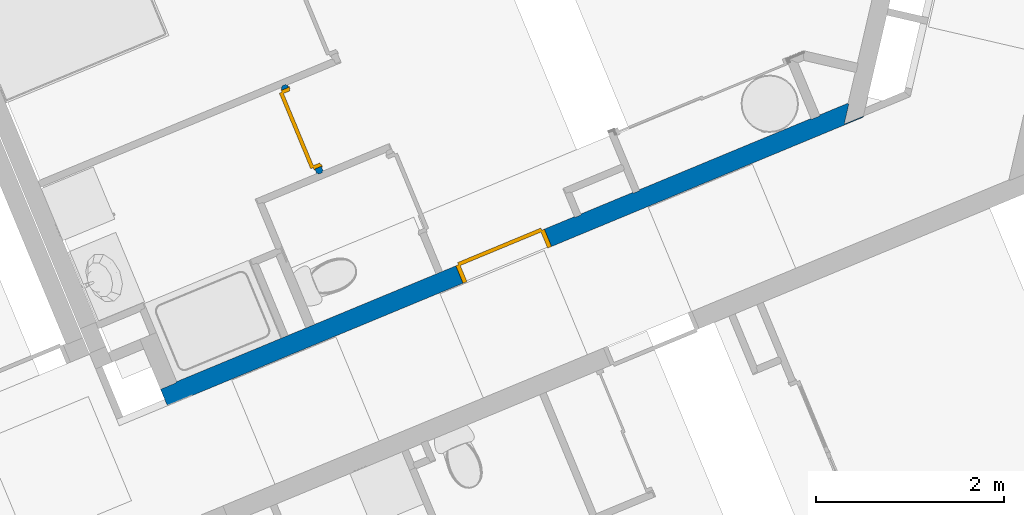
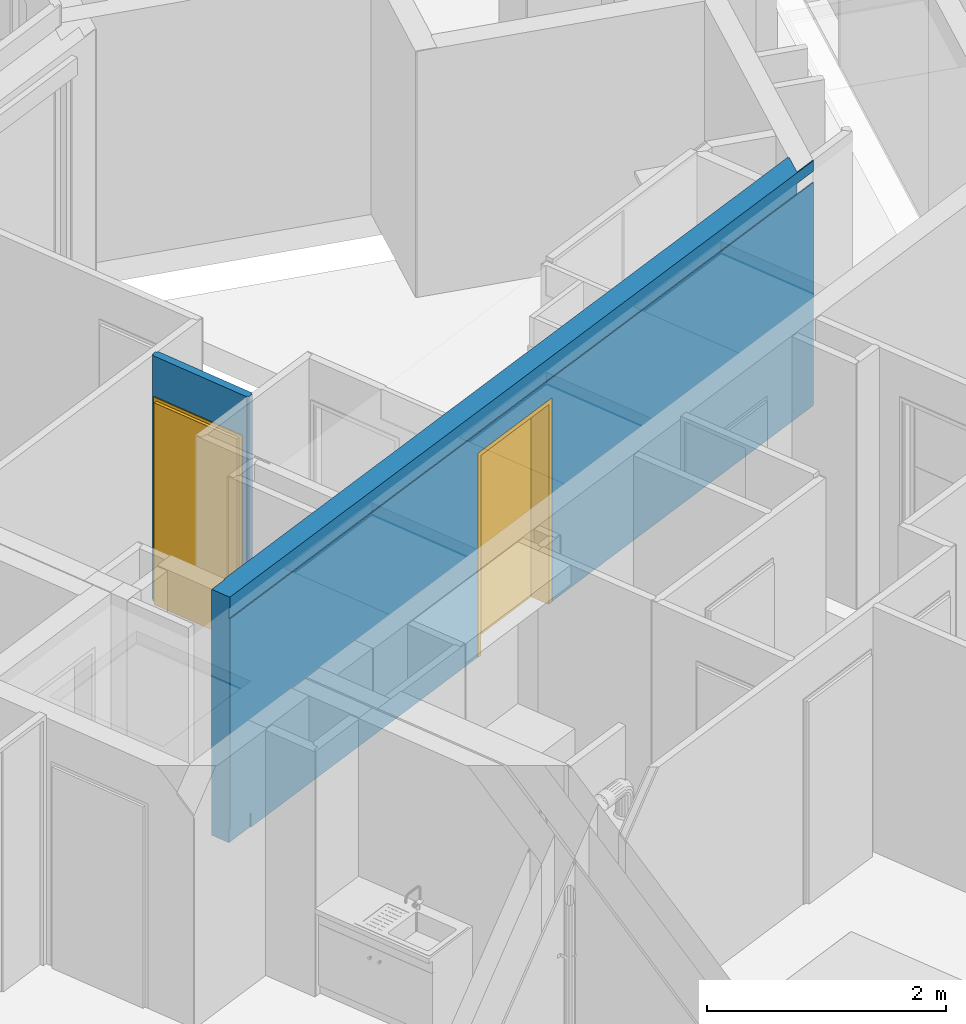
# One storey, part 15 of 119: 2 doors, 2 walls, 2 openings.
"""IFC2X3 building model written with IfcOpenShell, lengths in metres."""

from ifc_helpers import new_model, entity, si_unit, converted_unit, derived_unit, money_unit, direction, frame, origin_with_axes, place, context, subcontext, project, spatial, faceted_brep, source, transform, mapped, material, material_list, type_object, element, fill, save


model = new_model("IFC2X3")

# Units and contexts
model_context = context("Model", 3, precision=1e-05, world=origin_with_axes(), true_north=direction((0.0, 1.0)))
body_context = subcontext(model_context, "Body", "Model", "MODEL_VIEW")
ifc_project = project(units=[si_unit("LENGTHUNIT", "METRE"), si_unit("AREAUNIT", "SQUARE_METRE"), si_unit("VOLUMEUNIT", "CUBIC_METRE"), converted_unit("PLANEANGLEUNIT", "DEGREE", entity("IfcPlaneAngleMeasure", 0.0174532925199), si_unit("PLANEANGLEUNIT", "RADIAN"), dimensions=[0, 0, 0, 0, 0, 0, 0]), si_unit("SOLIDANGLEUNIT", "STERADIAN"), money_unit("EUR"), converted_unit("TIMEUNIT", "Year", entity("IfcTimeMeasure", 31556926.0), si_unit("TIMEUNIT", "SECOND"), dimensions=[0, 0, 1, 0, 0, 0, 0]), si_unit("MASSUNIT", "GRAM", prefix="KILO"), si_unit("THERMODYNAMICTEMPERATUREUNIT", "DEGREE_CELSIUS"), si_unit("LUMINOUSINTENSITYUNIT", "LUMEN"), si_unit("ENERGYUNIT", "JOULE", prefix="MEGA"), derived_unit("THERMALCONDUCTANCEUNIT", [(si_unit("POWERUNIT", "WATT"), 1), (si_unit("LENGTHUNIT", "METRE"), -1), (si_unit("THERMODYNAMICTEMPERATUREUNIT", "KELVIN"), -1)]), derived_unit("SPECIFICHEATCAPACITYUNIT", [(si_unit("ENERGYUNIT", "JOULE"), 1), (si_unit("MASSUNIT", "GRAM", prefix="KILO"), -1), (si_unit("THERMODYNAMICTEMPERATUREUNIT", "KELVIN"), -1)]), derived_unit("MASSDENSITYUNIT", [(si_unit("MASSUNIT", "GRAM", prefix="KILO"), 1), (si_unit("VOLUMEUNIT", "CUBIC_METRE"), -1)])], contexts=[model_context])

# Site, building, storey
site_placement = place(None, origin_with_axes())
site = spatial("IfcSite", under=ifc_project, at=site_placement, Name="Site", CompositionType="ELEMENT")
building_placement = place(site_placement, origin_with_axes())
building = spatial("IfcBuilding", under=site, at=building_placement, Name="Bâtiment", CompositionType="ELEMENT")
storey_placement = place(building_placement, origin_with_axes())
storey = spatial("IfcBuildingStorey", under=building, at=storey_placement, Name="Rez-de-chaussée", CompositionType="ELEMENT", Elevation=0.0)

# Wall, opening, door
ifc_material_1 = material(Name="Finition int - Plaque de plâtre")
ifc_material_2 = material(Name="Isolation - Laine de roche")
ifc_material_list_1 = material_list([ifc_material_1, ifc_material_2, ifc_material_1])
wall_type_1 = type_object("IfcWallType", Name="3 - Cloison 72mm Placostil 74", PredefinedType="USERDEFINED")
wall_1_placement = place(storey_placement, frame((-21.3785853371, -17.3244620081, 0.0), z_axis=(0.0, 0.0, 1.0), x_axis=(0.383112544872, -0.923701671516, 0.0)))
wall_1 = element("IfcWall", 1, at=wall_1_placement, inside=storey, type_object=wall_type_1, material=ifc_material_list_1, Name="Cloison Placostil 72/48", ObjectType="PARTITIONING", context=body_context, shape_type="Brep", body=[
    faceted_brep([(0.0281889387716, 0.0, 2.08), (0.0281889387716, 0.0, 0.0), (0.0, 0.0, 0.0), (0.0, 0.0, 2.5), (0.99099719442, 0.0, 2.5), (0.99099719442, 0.0, 0.0), (0.938188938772, 0.0, 0.0), (0.938188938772, 0.0, 2.08), (0.0281889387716, -0.013, 2.08), (0.0281889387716, -0.013, 0.0), (0.0, -0.013, 0.0), (0.0, -0.013, 2.5), (0.990997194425, -0.013, 2.5), (0.990997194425, -0.013, 0.0), (0.938188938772, -0.013, 0.0), (0.938188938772, -0.013, 2.08)], [[[0, 1, 2, 3, 4, 5, 6, 7]], [[1, 0, 8, 9]], [[1, 9, 10, 2]], [[11, 3, 2, 10]], [[4, 3, 11, 12]], [[12, 13, 5, 4]], [[14, 6, 5, 13]], [[7, 6, 14, 15]], [[0, 7, 15, 8]], [[15, 14, 13, 12, 11, 10, 9, 8]]]),
    faceted_brep([(0.0281889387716, -0.013, 2.08), (0.0281889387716, -0.013, 0.0), (-0.0129999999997, -0.013, 0.0), (-0.0129999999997, -0.013, 2.5), (1.00399719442, -0.013, 2.5), (1.00399719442, -0.013, 0.0), (0.938188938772, -0.013, 0.0), (0.938188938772, -0.013, 2.08), (0.0281889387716, -0.061, 2.08), (0.0281889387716, -0.061, 0.0), (-0.0129999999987, -0.061, 0.0), (-0.0129999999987, -0.061, 2.5), (1.00399719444, -0.061, 2.5), (1.00399719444, -0.061, 0.0), (0.938188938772, -0.061, 0.0), (0.938188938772, -0.061, 2.08)], [[[0, 1, 2, 3, 4, 5, 6, 7]], [[1, 0, 8, 9]], [[1, 9, 10, 2]], [[11, 3, 2, 10]], [[4, 3, 11, 12]], [[12, 13, 5, 4]], [[14, 6, 5, 13]], [[7, 6, 14, 15]], [[0, 7, 15, 8]], [[15, 14, 13, 12, 11, 10, 9, 8]]]),
    faceted_brep([(0.0281889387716, -0.061, 2.08), (0.0281889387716, -0.061, 0.0), (0.0, -0.061, 0.0), (0.0, -0.061, 2.5), (0.990997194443, -0.061, 2.5), (0.990997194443, -0.061, 0.0), (0.938188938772, -0.061, 0.0), (0.938188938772, -0.061, 2.08), (0.0281889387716, -0.074, 2.08), (0.0281889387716, -0.074, 0.0), (0.0, -0.074, 0.0), (0.0, -0.074, 2.5), (0.990997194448, -0.074, 2.5), (0.990997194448, -0.074, 0.0), (0.938188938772, -0.074, 0.0), (0.938188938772, -0.074, 2.08)], [[[0, 1, 2, 3, 4, 5, 6, 7]], [[1, 0, 8, 9]], [[1, 9, 10, 2]], [[11, 3, 2, 10]], [[4, 3, 11, 12]], [[12, 13, 5, 4]], [[14, 6, 5, 13]], [[7, 6, 14, 15]], [[0, 7, 15, 8]], [[15, 14, 13, 12, 11, 10, 9, 8]]]),
])
opening_1_placement = place(wall_1_placement, frame((0.483188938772, 0.0, 0.0), z_axis=(0.0, 0.0, 1.0), x_axis=(1.0, 0.0, 0.0)))
opening_1 = element("IfcOpeningElement", 2, at=opening_1_placement, cuts=wall_1, Name="Porte 83x204 bois alvéolaire", context=body_context, shape_type="Brep", body=[
    faceted_brep([(-0.455, 0.074, 0.0), (0.455, 0.074, 0.0), (0.455, -0.074, 0.0), (-0.455, -0.074, 0.0), (-0.455, 0.074, 2.08), (0.455, 0.074, 2.08), (0.455, -0.074, 2.08), (-0.455, -0.074, 2.08)], [[[0, 1, 2, 3]], [[0, 4, 5, 1]], [[1, 5, 6, 2]], [[3, 2, 6, 7]], [[4, 0, 3, 7]], [[5, 4, 7, 6]]]),
])
door_style_1 = type_object("IfcDoorStyle", Name="Porte int générique 2019", ConstructionType="NOTDEFINED", OperationType="SINGLE_SWING_RIGHT", ParameterTakesPrecedence=False, Sizeable=False)
shared_shape_1 = source(origin_with_axes(), body_context, "Body", "Brep", [
    faceted_brep([(0.455, -0.006, 0.0), (0.415, -0.006, 0.0), (0.415, -0.006, 2.04), (-0.415, -0.006, 2.04), (-0.415, -0.006, 0.0), (-0.455, -0.006, 0.0), (-0.455, -0.006, 2.08), (0.455, -0.006, 2.08), (0.455, -0.08, 0.0), (0.415, -0.08, 0.0), (0.415, -0.08, 2.04), (-0.415, -0.08, 2.04), (-0.415, -0.08, 0.0), (-0.455, -0.08, 0.0), (-0.455, -0.08, 2.08), (0.455, -0.08, 2.08)], [[[0, 1, 2, 3, 4, 5, 6, 7]], [[0, 8, 9, 1]], [[1, 9, 10, 2]], [[2, 10, 11, 3]], [[3, 11, 12, 4]], [[5, 4, 12, 13]], [[14, 6, 5, 13]], [[15, 7, 6, 14]], [[8, 0, 7, 15]], [[9, 8, 15, 14, 13, 12, 11, 10]]]),
    faceted_brep([(0.465, -0.006, 0.0), (0.465, 0.004, 0.0), (0.465, 0.004, 2.09), (0.465, -0.006, 2.09), (0.435, -0.006, 0.0), (0.435, 0.004, 0.0), (0.435, 0.004, 2.06), (-0.435, 0.004, 2.06), (-0.435, 0.004, 0.0), (-0.465, 0.004, 0.0), (-0.465, 0.004, 2.09), (-0.465, -0.006, 2.09), (-0.465, -0.006, 0.0), (-0.435, -0.006, 0.0), (-0.435, -0.006, 2.06), (0.435, -0.006, 2.06)], [[[0, 1, 2, 3]], [[0, 4, 5, 1]], [[1, 5, 6, 7, 8, 9, 10, 2]], [[3, 2, 10, 11]], [[4, 0, 3, 11, 12, 13, 14, 15]], [[5, 4, 15, 6]], [[6, 15, 14, 7]], [[7, 14, 13, 8]], [[12, 9, 8, 13]], [[11, 10, 9, 12]]]),
    faceted_brep([(0.465, -0.09, 0.0), (0.465, -0.08, 0.0), (0.465, -0.08, 2.09), (0.465, -0.09, 2.09), (0.435, -0.09, 0.0), (0.435, -0.08, 0.0), (0.435, -0.08, 2.06), (-0.435, -0.08, 2.06), (-0.435, -0.08, 0.0), (-0.465, -0.08, 0.0), (-0.465, -0.08, 2.09), (-0.465, -0.09, 2.09), (-0.465, -0.09, 0.0), (-0.435, -0.09, 0.0), (-0.435, -0.09, 2.06), (0.435, -0.09, 2.06)], [[[0, 1, 2, 3]], [[0, 4, 5, 1]], [[1, 5, 6, 7, 8, 9, 10, 2]], [[3, 2, 10, 11]], [[4, 0, 3, 11, 12, 13, 14, 15]], [[5, 4, 15, 6]], [[6, 15, 14, 7]], [[7, 14, 13, 8]], [[12, 9, 8, 13]], [[11, 10, 9, 12]]]),
    faceted_brep([(0.435, 0.034, 0.0), (0.435, -0.006, 0.0), (-0.435, -0.006, 0.0), (-0.435, 0.034, 0.0), (0.435, 0.034, 2.06), (0.435, -0.006, 2.06), (-0.435, -0.006, 2.06), (-0.435, 0.034, 2.06)], [[[0, 1, 2, 3]], [[4, 5, 1, 0]], [[1, 5, 6, 2]], [[3, 2, 6, 7]], [[0, 3, 7, 4]], [[7, 6, 5, 4]]]),
])
door_1_placement = place(opening_1_placement, frame((0.415, 0.0, 0.0), z_axis=(0.0, 0.0, 1.0), x_axis=(-1.0, 0.0, 0.0)))
door_1 = element("IfcDoor", 3, at=door_1_placement, inside=storey, type_object=door_style_1, Name="Porte 83x204 bois alvéolaire", ObjectType="DOOR", OverallHeight=2.04, OverallWidth=0.83, context=body_context, shape_type="MappedRepresentation", body=[
    mapped(shared_shape_1, transform((0.415, 0.08, 0.0))),
])
fill(opening_1, door_1)

ifc_material_3 = material(Name="Finition int - Enduit plâtre")
ifc_material_4 = material(Name="Béton")
ifc_material_list_2 = material_list([ifc_material_3, ifc_material_4, ifc_material_3])
wall_type_2 = type_object("IfcWallType", Name="2 - Murs Béton 18 + Enduit 2 Faces 200", PredefinedType="USERDEFINED")
wall_2_placement = place(storey_placement, frame((-22.6606031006, -20.7304905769, 0.0), z_axis=(0.0, 0.0, 1.0), x_axis=(0.923701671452, 0.383112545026, 0.0)))
wall_2 = element("IfcWall", 4, at=wall_2_placement, inside=storey, type_object=wall_type_2, material=ifc_material_list_2, Name="M_Ext-008", ObjectType="SOLIDWALL", context=body_context, shape_type="Brep", body=[
    faceted_brep([(3.40663340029, 0.18, 0.0), (3.40663340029, 0.18, 2.085), (4.42663340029, 0.18, 2.085), (4.42663340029, 0.18, 0.0), (4.77263340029, 0.18, 0.0), (4.77263340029, 0.18, 2.5), (4.84663340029, 0.18, 2.5), (4.84663340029, 0.18, 0.0), (5.44663340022, 0.18, 0.0), (5.44663340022, 0.18, 2.5), (5.52063340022, 0.18, 2.5), (5.52063340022, 0.18, 0.0), (7.49869973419, 0.18, 0.0), (7.49869973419, 0.18, 2.5), (7.59869973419, 0.18, 2.5), (7.59869973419, 0.18, 0.0), (7.9197511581, 0.18, 0.0), (7.9197511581, 0.18, 2.51), (0.18, 0.18, 2.51), (0.18, 0.18, 0.0), (3.40663340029, 0.19, 0.0), (3.40663340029, 0.19, 2.085), (4.42663340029, 0.19, 2.085), (4.42663340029, 0.19, 0.0), (4.77263340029, 0.19, 0.0), (4.77263340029, 0.19, 2.5), (4.84663340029, 0.19, 2.5), (4.84663340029, 0.19, 0.0), (5.44663340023, 0.19, 0.0), (5.44663340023, 0.19, 2.5), (5.52063340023, 0.19, 2.5), (5.52063340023, 0.19, 0.0), (7.4986997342, 0.19, 0.0), (7.4986997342, 0.19, 2.5), (7.5986997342, 0.19, 2.5), (7.5986997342, 0.19, 0.0), (7.92688993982, 0.19, 0.0), (7.92688993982, 0.19, 2.51), (0.18, 0.19, 2.51), (0.18, 0.19, 0.0)], [[[0, 1, 2, 3, 4, 5, 6, 7, 8, 9, 10, 11, 12, 13, 14, 15, 16, 17, 18, 19]], [[1, 0, 20, 21]], [[2, 1, 21, 22]], [[3, 2, 22, 23]], [[3, 23, 24, 4]], [[5, 4, 24, 25]], [[6, 5, 25, 26]], [[7, 6, 26, 27]], [[7, 27, 28, 8]], [[9, 8, 28, 29]], [[9, 29, 30, 10]], [[11, 10, 30, 31]], [[11, 31, 32, 12]], [[13, 12, 32, 33]], [[14, 13, 33, 34]], [[15, 14, 34, 35]], [[15, 35, 36, 16]], [[17, 16, 36, 37]], [[37, 38, 18, 17]], [[38, 39, 19, 18]], [[20, 0, 19, 39]], [[21, 20, 39, 38, 37, 36, 35, 34, 33, 32, 31, 30, 29, 28, 27, 26, 25, 24, 23, 22]]]),
    faceted_brep([(3.40663340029, 0.0, 0.0), (3.40663340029, 0.0, 2.085), (4.42663340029, 0.0, 2.085), (4.42663340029, 0.0, 0.0), (7.80353975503, 0.0, 0.0), (7.80353975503, 0.0, 2.51), (0.0, 0.0, 2.51), (0.0, 0.0, 0.150000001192), (0.0, 0.0, 0.0), (3.40663340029, 0.18, 0.0), (3.40663340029, 0.18, 2.085), (4.42663340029, 0.18, 2.085), (4.42663340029, 0.18, 0.0), (7.93203782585, 0.18, 0.0), (7.93203782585, 0.18, 2.51), (0.0, 0.18, 2.51), (0.0, 0.18, 0.150000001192), (0.0, 0.18, 0.0)], [[[0, 1, 2, 3, 4, 5, 6, 7, 8]], [[1, 0, 9, 10]], [[2, 1, 10, 11]], [[3, 2, 11, 12]], [[3, 12, 13, 4]], [[5, 4, 13, 14]], [[14, 15, 6, 5]], [[15, 16, 7, 6]], [[17, 8, 7, 16]], [[9, 0, 8, 17]], [[10, 9, 17, 16, 15, 14, 13, 12, 11]]]),
    faceted_brep([(3.40663340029, -0.00999999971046, 0.02), (3.40663340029, -0.00999999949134, 2.085), (4.42663340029, -0.00999999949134, 2.085), (4.42663340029, -0.00999999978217, 0.02), (8.0175610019, -0.0100000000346, 0.02), (8.0175609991, -0.0100000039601, 2.287), (0.0, -0.00999999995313, 2.287), (0.0, -0.00999999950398, 0.15), (0.290000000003, -0.00999999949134, 0.15), (0.290000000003, -0.00999999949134, 0.02), (3.40663340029, -0.00565602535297, 0.02), (3.40663340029, -0.00565602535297, 0.0), (3.40663340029, 0.0, 0.0), (3.40663340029, 0.0, 2.085), (4.42663340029, 0.0, 2.085), (4.42663340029, 0.0, 0.0), (4.42663340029, -0.0045376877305, 0.0), (4.42663340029, -0.0045376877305, 0.02), (8.02427631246, -0.000593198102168, 0.02), (8.02469978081, 0.0, 2.287), (8.02427631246, -0.000593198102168, 0.0), (8.02469978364, 0.0, 0.0), (0.0, 0.0, 2.287), (0.0, 0.0, 0.15), (0.290000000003, 0.0, 0.15), (0.290000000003, 0.0, 0.0), (0.290000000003, -0.00907313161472, 0.0), (0.290000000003, -0.00907313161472, 0.02)], [[[0, 1, 2, 3, 4, 5, 6, 7, 8, 9]], [[1, 0, 10, 11, 12, 13]], [[2, 1, 13, 14]], [[3, 2, 14, 15, 16, 17]], [[3, 17, 18, 4]], [[19, 5, 4, 18, 20, 21]], [[19, 22, 6, 5]], [[22, 23, 7, 6]], [[8, 7, 23, 24]], [[25, 26, 27, 9, 8, 24]], [[10, 0, 9, 27]], [[11, 10, 27, 26]], [[12, 11, 26, 25]], [[13, 12, 25, 24, 23, 22, 19, 21, 15, 14]], [[16, 15, 21, 20]], [[17, 16, 20, 18]]]),
    faceted_brep([(0.0, 0.0, 2.51), (8.02469977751, -2.16446416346e-09, 2.51), (8.02469978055, -4.32892832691e-09, 2.5), (8.02469978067, 0.0, 2.4), (0.0, 0.0, 2.4), (8.0175609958, -0.0100000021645, 2.51), (0.0, -0.01, 2.51), (8.01756099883, -0.0100000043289, 2.5), (8.01756099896, -0.0100000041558, 2.4), (0.0, -0.00999999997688, 2.4)], [[[0, 1, 2, 3, 4]], [[5, 1, 0, 6]], [[1, 5, 7, 2]], [[8, 3, 2, 7]], [[3, 8, 9, 4]], [[6, 0, 4, 9]], [[5, 6, 9, 8, 7]]]),
])
opening_2_placement = place(wall_2_placement, frame((3.91663340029, 0.0, 0.0), z_axis=(0.0, 0.0, 1.0), x_axis=(1.0, 0.0, 0.0)))
opening_2 = element("IfcOpeningElement", 5, at=opening_2_placement, cuts=wall_2, Name="Porte 93x204 bois blindée", context=body_context, shape_type="Brep", body=[
    faceted_brep([(-0.51, 0.2, 0.0), (0.51, 0.2, 0.0), (0.51, -0.2, 0.0), (-0.51, -0.2, 0.0), (-0.51, 0.2, 2.085), (0.51, 0.2, 2.085), (0.51, -0.2, 2.085), (-0.51, -0.2, 2.085)], [[[0, 1, 2, 3]], [[0, 4, 5, 1]], [[1, 5, 6, 2]], [[3, 2, 6, 7]], [[4, 0, 3, 7]], [[5, 4, 7, 6]]]),
])
door_style_2 = type_object("IfcDoorStyle", Name="Porte int générique 2019", ConstructionType="NOTDEFINED", OperationType="SINGLE_SWING_LEFT", ParameterTakesPrecedence=False, Sizeable=False)
shared_shape_2 = source(origin_with_axes(), body_context, "Body", "Brep", [
    faceted_brep([(-0.51, 0.0, 0.0), (-0.51, 0.0, 2.085), (0.51, 0.0, 2.085), (0.51, 0.0, 0.0), (0.48, 0.0, 0.0), (0.48, 0.0, 2.055), (-0.48, 0.0, 2.055), (-0.48, 0.0, 0.0), (-0.51, -0.2, 0.0), (-0.51, -0.2, 2.085), (0.51, -0.2, 2.085), (0.51, -0.2, 0.0), (0.465, -0.2, 0.0), (0.465, -0.015, 0.0), (0.48, -0.015, 0.0), (0.48, -0.015, 2.055), (-0.48, -0.015, 2.055), (-0.48, -0.015, 0.0), (-0.465, -0.015, 0.0), (-0.465, -0.2, 0.0), (-0.465, -0.2, 2.04), (0.465, -0.2, 2.04), (0.465, -0.015, 2.04), (-0.465, -0.015, 2.04)], [[[0, 1, 2, 3, 4, 5, 6, 7]], [[8, 9, 1, 0]], [[9, 10, 2, 1]], [[10, 11, 3, 2]], [[3, 11, 12, 13, 14, 4]], [[5, 4, 14, 15]], [[6, 5, 15, 16]], [[7, 6, 16, 17]], [[0, 7, 17, 18, 19, 8]], [[19, 20, 21, 12, 11, 10, 9, 8]], [[22, 13, 12, 21]], [[17, 16, 15, 14, 13, 22, 23, 18]], [[18, 23, 20, 19]], [[23, 22, 21, 20]]]),
    faceted_brep([(-0.48, 0.025, 0.0), (0.48, 0.025, 0.0), (0.48, -0.015, 0.0), (-0.48, -0.015, 0.0), (-0.48, 0.025, 2.055), (0.48, 0.025, 2.055), (0.48, -0.015, 2.055), (-0.48, -0.015, 2.055)], [[[0, 1, 2, 3]], [[0, 4, 5, 1]], [[1, 5, 6, 2]], [[3, 2, 6, 7]], [[4, 0, 3, 7]], [[5, 4, 7, 6]]]),
])
door_2_placement = place(opening_2_placement, frame((-0.465, 0.0, 0.0), z_axis=(0.0, 0.0, 1.0), x_axis=(1.0, 0.0, 0.0)))
door_2 = element("IfcDoor", 6, at=door_2_placement, inside=storey, type_object=door_style_2, Name="Porte 93x204 bois blindée", ObjectType="DOOR", OverallHeight=2.04, OverallWidth=0.93, context=body_context, shape_type="MappedRepresentation", body=[
    mapped(shared_shape_2, transform((0.465, 0.19, 0.0))),
])
fill(opening_2, door_2)

save(model, "model.ifc")
